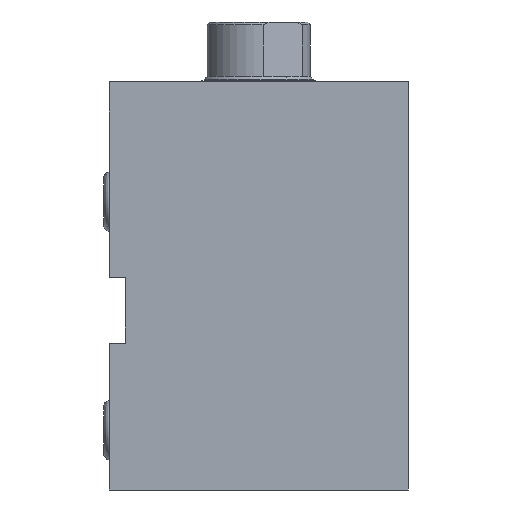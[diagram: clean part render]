
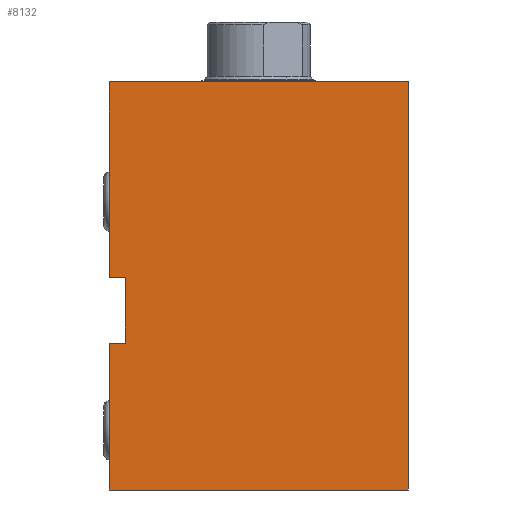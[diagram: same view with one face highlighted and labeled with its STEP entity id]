
A CAD part, left-side view. The second image highlights one B-rep face of the part: STEP entity #8132.
In plain terms, the highlighted planar face has unit normal (-1, 0, 0).
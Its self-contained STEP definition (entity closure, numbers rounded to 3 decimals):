
#129 = ORIENTED_EDGE ( 'NONE', *, *, #12567, .T. ) ;
#215 = VERTEX_POINT ( 'NONE', #10163 ) ;
#242 = DIRECTION ( 'NONE',  ( 1., 0., 0. ) ) ;
#305 = CARTESIAN_POINT ( 'NONE',  ( 0., 0., 75. ) ) ;
#312 = LINE ( 'NONE', #8064, #5800 ) ;
#493 = ORIENTED_EDGE ( 'NONE', *, *, #1324, .T. ) ;
#726 = LINE ( 'NONE', #11490, #3240 ) ;
#760 = CARTESIAN_POINT ( 'NONE',  ( 0., 52., 39. ) ) ;
#800 = FACE_OUTER_BOUND ( 'NONE', #4719, .T. ) ;
#1219 = CARTESIAN_POINT ( 'NONE',  ( 0., 52., 27. ) ) ;
#1324 = EDGE_CURVE ( 'NONE', #9901, #9471, #12187, .T. ) ;
#1580 = CARTESIAN_POINT ( 'NONE',  ( 0., 0., 0. ) ) ;
#2013 = VERTEX_POINT ( 'NONE', #3643 ) ;
#2302 = VECTOR ( 'NONE', #4374, 1000. ) ;
#2553 = VERTEX_POINT ( 'NONE', #2847 ) ;
#2759 = DIRECTION ( 'NONE',  ( 0., 1., 0. ) ) ;
#2819 = VECTOR ( 'NONE', #2759, 1000. ) ;
#2847 = CARTESIAN_POINT ( 'NONE',  ( 0., 52., 39. ) ) ;
#3014 = EDGE_CURVE ( 'NONE', #9901, #3325, #6452, .T. ) ;
#3196 = ORIENTED_EDGE ( 'NONE', *, *, #11868, .F. ) ;
#3233 = VERTEX_POINT ( 'NONE', #1580 ) ;
#3240 = VECTOR ( 'NONE', #4290, 1000. ) ;
#3325 = VERTEX_POINT ( 'NONE', #3800 ) ;
#3335 = AXIS2_PLACEMENT_3D ( 'NONE', #8312, #242, #8185 ) ;
#3364 = VECTOR ( 'NONE', #5718, 1000. ) ;
#3643 = CARTESIAN_POINT ( 'NONE',  ( 0., 55., 27. ) ) ;
#3758 = CARTESIAN_POINT ( 'NONE',  ( 0., 55., 75. ) ) ;
#3794 = DIRECTION ( 'NONE',  ( 0., 0., -1. ) ) ;
#3800 = CARTESIAN_POINT ( 'NONE',  ( 0., 0., 75. ) ) ;
#3858 = CARTESIAN_POINT ( 'NONE',  ( 0., 55., 75. ) ) ;
#3928 = DIRECTION ( 'NONE',  ( 0., -1., 0. ) ) ;
#4262 = LINE ( 'NONE', #3858, #8969 ) ;
#4290 = DIRECTION ( 'NONE',  ( 0., 0., 1. ) ) ;
#4374 = DIRECTION ( 'NONE',  ( 0., 1., 0. ) ) ;
#4719 = EDGE_LOOP ( 'NONE', ( #3196, #10542, #129, #11028, #11633, #11975, #493, #8240 ) ) ;
#5167 = DIRECTION ( 'NONE',  ( 0., -1., 0. ) ) ;
#5467 = LINE ( 'NONE', #1219, #2302 ) ;
#5718 = DIRECTION ( 'NONE',  ( 0., 0., -1. ) ) ;
#5800 = VECTOR ( 'NONE', #3928, 1000. ) ;
#5815 = CARTESIAN_POINT ( 'NONE',  ( 0., 55., 39. ) ) ;
#6032 = LINE ( 'NONE', #9729, #3364 ) ;
#6452 = LINE ( 'NONE', #305, #8810 ) ;
#6759 = EDGE_CURVE ( 'NONE', #2553, #9471, #11207, .T. ) ;
#8064 = CARTESIAN_POINT ( 'NONE',  ( 0., 0., 0. ) ) ;
#8132 = ADVANCED_FACE ( 'NONE', ( #800 ), #8358, .F. ) ;
#8185 = DIRECTION ( 'NONE',  ( 0., 0., -1. ) ) ;
#8240 = ORIENTED_EDGE ( 'NONE', *, *, #6759, .F. ) ;
#8312 = CARTESIAN_POINT ( 'NONE',  ( 0., 0., 75. ) ) ;
#8358 = PLANE ( 'NONE',  #3335 ) ;
#8484 = CARTESIAN_POINT ( 'NONE',  ( 0., 52., 27. ) ) ;
#8810 = VECTOR ( 'NONE', #5167, 1000. ) ;
#8926 = EDGE_CURVE ( 'NONE', #215, #3233, #312, .T. ) ;
#8969 = VECTOR ( 'NONE', #12875, 1000. ) ;
#9170 = VECTOR ( 'NONE', #3794, 1000. ) ;
#9471 = VERTEX_POINT ( 'NONE', #5815 ) ;
#9729 = CARTESIAN_POINT ( 'NONE',  ( 0., 0., 75. ) ) ;
#9901 = VERTEX_POINT ( 'NONE', #3758 ) ;
#10163 = CARTESIAN_POINT ( 'NONE',  ( 0., 55., 0. ) ) ;
#10246 = EDGE_CURVE ( 'NONE', #10827, #2013, #5467, .T. ) ;
#10542 = ORIENTED_EDGE ( 'NONE', *, *, #10246, .T. ) ;
#10827 = VERTEX_POINT ( 'NONE', #8484 ) ;
#11028 = ORIENTED_EDGE ( 'NONE', *, *, #8926, .T. ) ;
#11207 = LINE ( 'NONE', #760, #2819 ) ;
#11490 = CARTESIAN_POINT ( 'NONE',  ( 0., 52., 39. ) ) ;
#11633 = ORIENTED_EDGE ( 'NONE', *, *, #12503, .F. ) ;
#11868 = EDGE_CURVE ( 'NONE', #10827, #2553, #726, .T. ) ;
#11975 = ORIENTED_EDGE ( 'NONE', *, *, #3014, .F. ) ;
#12187 = LINE ( 'NONE', #12636, #9170 ) ;
#12503 = EDGE_CURVE ( 'NONE', #3325, #3233, #6032, .T. ) ;
#12567 = EDGE_CURVE ( 'NONE', #2013, #215, #4262, .T. ) ;
#12636 = CARTESIAN_POINT ( 'NONE',  ( 0., 55., 75. ) ) ;
#12875 = DIRECTION ( 'NONE',  ( 0., 0., -1. ) ) ;
